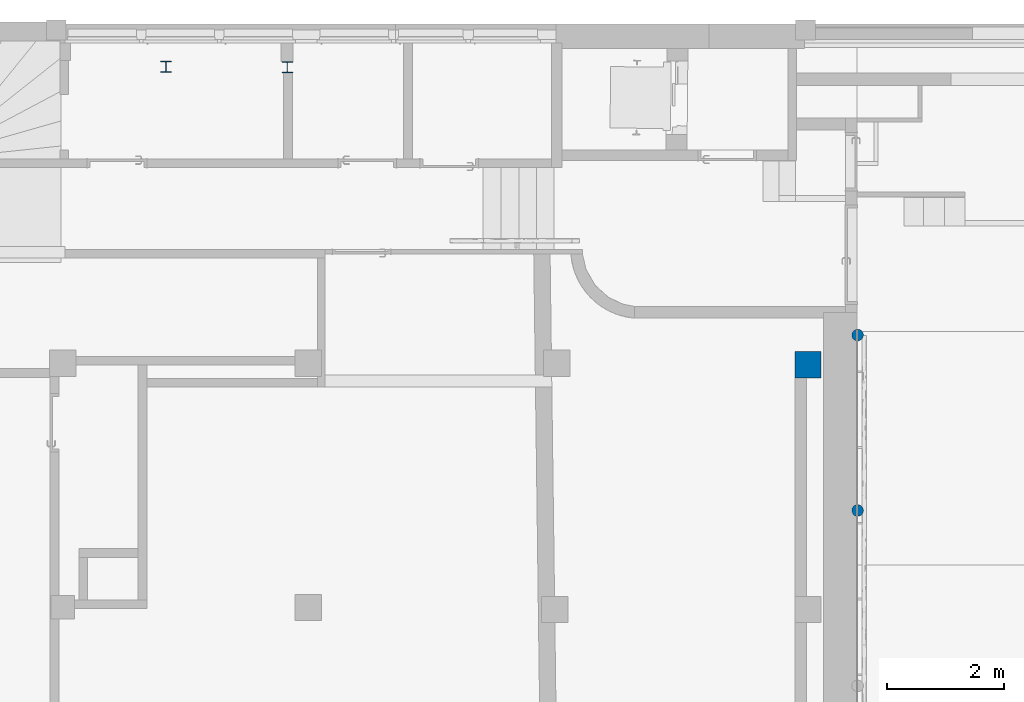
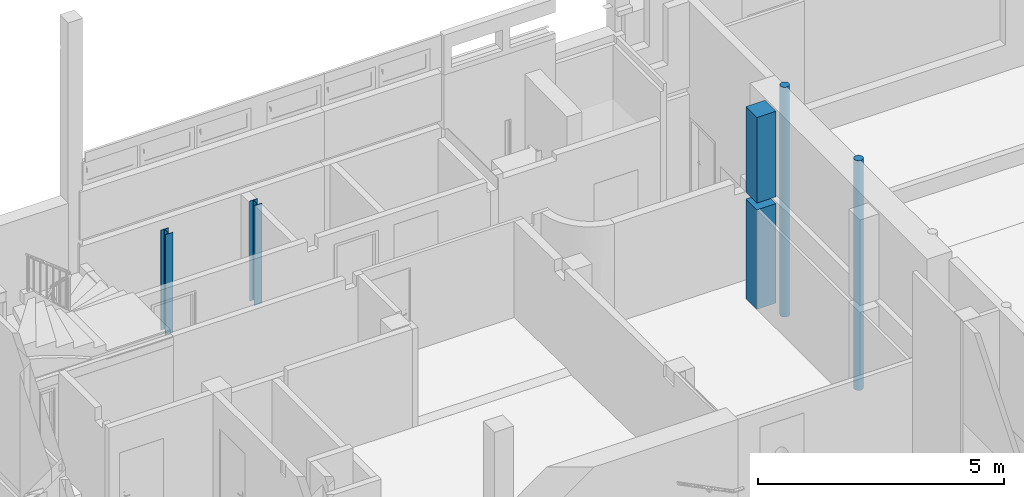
# One storey, part 2 of 39: 5 columns.
"""IFC4 building model written with IfcOpenShell, lengths in metres."""

from ifc_helpers import new_model, entity, si_unit, converted_unit, derived_unit, direction, frame, origin, place, context, subcontext, project, spatial, indexed_curve, outline, extrude, source, transform, mapped, material, material_list, type_object, type_shapes, element, save


model = new_model("IFC4")

# Units and contexts
model_context = context("Model", 3, precision=1e-05, world=origin(), true_north=direction((6.12303176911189e-17, 1.0)))
body_context = subcontext(model_context, "Body", "Model", "MODEL_VIEW")
ifc_project = project(units=[si_unit("LENGTHUNIT", "METRE"), si_unit("AREAUNIT", "SQUARE_METRE"), si_unit("VOLUMEUNIT", "CUBIC_METRE"), converted_unit("PLANEANGLEUNIT", "DEGREE", entity("IfcRatioMeasure", 0.0174532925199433), si_unit("PLANEANGLEUNIT", "RADIAN"), dimensions=[0, 0, 0, 0, 0, 0, 0]), si_unit("MASSUNIT", "GRAM", prefix="KILO"), derived_unit("MASSDENSITYUNIT", [(si_unit("MASSUNIT", "GRAM", prefix="KILO"), 1), (si_unit("LENGTHUNIT", "METRE"), -3)]), derived_unit("MOMENTOFINERTIAUNIT", [(si_unit("LENGTHUNIT", "METRE"), 4)]), si_unit("TIMEUNIT", "SECOND"), si_unit("FREQUENCYUNIT", "HERTZ"), si_unit("THERMODYNAMICTEMPERATUREUNIT", "DEGREE_CELSIUS"), derived_unit("THERMALTRANSMITTANCEUNIT", [(si_unit("MASSUNIT", "GRAM", prefix="KILO"), 1), (si_unit("THERMODYNAMICTEMPERATUREUNIT", "KELVIN"), -1), (si_unit("TIMEUNIT", "SECOND"), -3)]), derived_unit("VOLUMETRICFLOWRATEUNIT", [(si_unit("LENGTHUNIT", "METRE"), 3), (si_unit("TIMEUNIT", "SECOND"), -1)]), si_unit("ELECTRICCURRENTUNIT", "AMPERE"), si_unit("ELECTRICVOLTAGEUNIT", "VOLT"), si_unit("POWERUNIT", "WATT"), si_unit("FORCEUNIT", "NEWTON", prefix="KILO"), si_unit("ILLUMINANCEUNIT", "LUX"), si_unit("LUMINOUSFLUXUNIT", "LUMEN"), si_unit("LUMINOUSINTENSITYUNIT", "CANDELA"), derived_unit("USERDEFINED", [(si_unit("MASSUNIT", "GRAM", prefix="KILO"), -1), (si_unit("LENGTHUNIT", "METRE"), -2), (si_unit("TIMEUNIT", "SECOND"), 3), (si_unit("LUMINOUSFLUXUNIT", "LUMEN"), 1)]), derived_unit("LINEARVELOCITYUNIT", [(si_unit("LENGTHUNIT", "METRE"), 1), (si_unit("TIMEUNIT", "SECOND"), -1)]), si_unit("PRESSUREUNIT", "PASCAL"), derived_unit("USERDEFINED", [(si_unit("LENGTHUNIT", "METRE"), -2), (si_unit("MASSUNIT", "GRAM", prefix="KILO"), 1), (si_unit("TIMEUNIT", "SECOND"), -2)]), derived_unit("LINEARFORCEUNIT", [(si_unit("MASSUNIT", "GRAM", prefix="KILO"), 1), (si_unit("LENGTHUNIT", "METRE"), 1), (si_unit("TIMEUNIT", "SECOND"), -2), (si_unit("LENGTHUNIT", "METRE"), -1)]), derived_unit("PLANARFORCEUNIT", [(si_unit("MASSUNIT", "GRAM", prefix="KILO"), 1), (si_unit("LENGTHUNIT", "METRE"), 1), (si_unit("TIMEUNIT", "SECOND"), -2), (si_unit("LENGTHUNIT", "METRE"), -2)])], contexts=[model_context])

# Site, building, storey
site_placement = place(None, origin())
site = spatial("IfcSite", under=ifc_project, at=site_placement, Name="Default", CompositionType="ELEMENT")
building_placement = place(site_placement, origin())
building = spatial("IfcBuilding", under=site, at=building_placement, Name="HOTEL CONSULAIRE BOULOGNE SUR MER", CompositionType="ELEMENT")
storey_placement = place(building_placement, frame((0.0, 0.0, -5.02343668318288)))
storey = spatial("IfcBuildingStorey", under=building, at=storey_placement, Name="SS3", CompositionType="ELEMENT", Elevation=-5.02343668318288)

# Columns
ifc_material_1 = material(Name="Acier structurel - S235", Category="Métal")
column_type_1 = type_object("IfcColumnType", Name="Poteau HE-A:HEA180", PredefinedType="COLUMN", material=ifc_material_1)
shared_shape_1 = source(origin(), body_context, "Body", "SweptSolid", [
    extrude(outline(indexed_curve([(0.086, -0.09), (0.095, -0.09), (0.095, 0.09), (0.086, 0.09), (0.086, 0.018), (0.0858153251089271, 0.0156534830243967), (0.0852658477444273, 0.0133647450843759), (0.0843650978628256, 0.0111901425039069), (0.0831352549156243, 0.009183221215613), (0.0816066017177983, 0.00739339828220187), (0.0798167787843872, 0.00586474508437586), (0.0778098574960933, 0.00463490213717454), (0.0756352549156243, 0.00373415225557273), (0.0733465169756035, 0.00318467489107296), (0.0710000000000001, 0.003), (-0.071, 0.003), (-0.0733465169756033, 0.00318467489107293), (-0.0756352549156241, 0.00373415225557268), (-0.0778098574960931, 0.00463490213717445), (-0.079816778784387, 0.00586474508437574), (-0.0816066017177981, 0.00739339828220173), (-0.0831352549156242, 0.00918322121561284), (-0.0843650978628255, 0.0111901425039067), (-0.0852658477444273, 0.0133647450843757), (-0.085815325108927, 0.0156534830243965), (-0.086, 0.0179999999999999), (-0.086, 0.09), (-0.095, 0.09), (-0.095, -0.09), (-0.086, -0.09), (-0.086, -0.018), (-0.0858153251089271, -0.0156534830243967), (-0.0852658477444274, -0.013364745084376), (-0.0843650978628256, -0.0111901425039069), (-0.0831352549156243, -0.00918322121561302), (-0.0816066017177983, -0.00739339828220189), (-0.0798167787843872, -0.00586474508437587), (-0.0778098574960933, -0.00463490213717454), (-0.0756352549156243, -0.00373415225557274), (-0.0733465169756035, -0.00318467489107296), (-0.0710000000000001, -0.00300000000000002), (0.071, -0.00299999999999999), (0.0733465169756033, -0.00318467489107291), (0.0756352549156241, -0.00373415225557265), (0.0778098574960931, -0.00463490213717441), (0.079816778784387, -0.0058647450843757), (0.0816066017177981, -0.00739339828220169), (0.0831352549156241, -0.00918322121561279), (0.0843650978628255, -0.0111901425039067), (0.0852658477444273, -0.0133647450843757), (0.0858153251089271, -0.0156534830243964), (0.086, -0.0179999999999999), (0.086, -0.09)], self_intersect=False)), frame((0.0, 0.0, -5.02343668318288), z_axis=(0.0, 0.0, 1.0), x_axis=(0.0, -1.0, 0.0)), (0.0, 0.0, 1.0), 2.47999999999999),
])
type_shapes(column_type_1, [shared_shape_1])
for number, where in (
    (1, (2.61117677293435, -10.55332416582, 5.02343668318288)),
    (2, (0.533176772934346, -10.54432416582, 5.02343668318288)),
):
    element("IfcColumn", number, at=place(storey_placement, frame(where)), inside=storey, type_object=column_type_1, material=ifc_material_1, Name="Poteau HE-A:HEA180", ObjectType="Poteau HE-A:HEA180", PredefinedType="COLUMN", context=body_context, shape_type="MappedRepresentation", body=[
        mapped(shared_shape_1, transform((0.0, 0.0, 0.0), scale=1.0)),
    ])
ifc_material_2 = material(Name="Finition Peinture - Blanc satiné", Category="Peinture")
ifc_material_3 = material(Name="Maçonnerie - Béton coulé sur place", Category="Béton")
ifc_material_list_1 = material_list([ifc_material_3, ifc_material_2])
column_type_2 = type_object("IfcColumnType", Name="Poteau béton - Arrondi:200mm", PredefinedType="COLUMN", material=ifc_material_list_1)
shared_shape_2 = source(origin(), body_context, "Body", "SweptSolid", [
    extrude(outline(indexed_curve([(0.0999999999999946, 0.0), (0.0951056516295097, 0.0309016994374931), (0.0809016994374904, 0.0587785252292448), (0.0587785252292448, 0.0809016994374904), (0.0309016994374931, 0.0951056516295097), (0.0, 0.0999999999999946), (-0.0309016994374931, 0.0951056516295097), (-0.0587785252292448, 0.0809016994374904), (-0.0809016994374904, 0.0587785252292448), (-0.0951056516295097, 0.0309016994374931), (-0.0999999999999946, 0.0), (-0.0951056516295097, -0.0309016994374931), (-0.0809016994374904, -0.0587785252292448), (-0.0587785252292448, -0.0809016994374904), (-0.0309016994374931, -0.0951056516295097), (0.0, -0.0999999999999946), (0.0309016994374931, -0.0951056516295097), (0.0587785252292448, -0.0809016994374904), (0.0809016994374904, -0.0587785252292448), (0.0951056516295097, -0.0309016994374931), (0.0999999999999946, 0.0)], self_intersect=False)), frame((12.3663396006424, -18.134909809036, -5.96433668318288)), (0.0, 0.0, 1.0), 5.69433668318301),
])
type_shapes(column_type_2, [shared_shape_2])
column_1_placement = place(storey_placement, frame((0.0, 0.0, 5.02343668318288)))
element("IfcColumn", 3, at=column_1_placement, inside=storey, type_object=column_type_2, material=ifc_material_2, Name="Poteau béton - Arrondi:200mm", ObjectType="Poteau béton - Arrondi:200mm", PredefinedType="COLUMN", context=body_context, shape_type="MappedRepresentation", body=[
    mapped(shared_shape_2, transform((0.0, 0.0, 0.0), scale=1.0)),
])
ifc_material_list_2 = material_list([ifc_material_3, ifc_material_2])
column_type_3 = type_object("IfcColumnType", Name="Poteau béton - Arrondi:200mm", PredefinedType="COLUMN", material=ifc_material_list_2)
shared_shape_3 = source(origin(), body_context, "Body", "SweptSolid", [
    extrude(outline(indexed_curve([(0.0999999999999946, 0.0), (0.0951056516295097, 0.0309016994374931), (0.0809016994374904, 0.0587785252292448), (0.0587785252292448, 0.0809016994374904), (0.0309016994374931, 0.0951056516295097), (0.0, 0.0999999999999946), (-0.0309016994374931, 0.0951056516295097), (-0.0587785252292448, 0.0809016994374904), (-0.0809016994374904, 0.0587785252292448), (-0.0951056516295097, 0.0309016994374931), (-0.0999999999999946, 0.0), (-0.0951056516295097, -0.0309016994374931), (-0.0809016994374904, -0.0587785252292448), (-0.0587785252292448, -0.0809016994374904), (-0.0309016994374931, -0.0951056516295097), (0.0, -0.0999999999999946), (0.0309016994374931, -0.0951056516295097), (0.0587785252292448, -0.0809016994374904), (0.0809016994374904, -0.0587785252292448), (0.0951056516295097, -0.0309016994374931), (0.0999999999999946, 0.0)], self_intersect=False)), frame((12.3663396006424, -15.134909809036, -5.96433668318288)), (0.0, 0.0, 1.0), 5.69433668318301),
])
type_shapes(column_type_3, [shared_shape_3])
column_2_placement = place(storey_placement, frame((0.0, 0.0, 5.02343668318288)))
element("IfcColumn", 4, at=column_2_placement, inside=storey, type_object=column_type_3, material=ifc_material_2, Name="Poteau béton - Arrondi:200mm", ObjectType="Poteau béton - Arrondi:200mm", PredefinedType="COLUMN", context=body_context, shape_type="MappedRepresentation", body=[
    mapped(shared_shape_3, transform((0.0, 0.0, 0.0), scale=1.0)),
])
column_type_4 = type_object("IfcColumnType", Name="Poteau béton - Rectangulaire:450X450", PredefinedType="COLUMN", material=ifc_material_3)
shared_shape_4 = source(origin(), body_context, "Body", "SweptSolid", [
    extrude(outline(indexed_curve([(-0.225000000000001, -0.225000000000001), (0.224999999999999, -0.225000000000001), (0.225000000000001, 0.224999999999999), (-0.224999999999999, 0.225000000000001), (-0.225000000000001, -0.225000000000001)], self_intersect=False)), frame((11.5182012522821, -15.6403511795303, -5.02343668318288), z_axis=(0.0, 0.0, 1.0), x_axis=(0.0, -1.0, 0.0)), (0.0, 0.0, 1.0), 2.46399047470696),
    extrude(outline(indexed_curve([(-0.225000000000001, -0.225000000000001), (0.224999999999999, -0.225000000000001), (0.225000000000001, 0.224999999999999), (-0.224999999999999, 0.225000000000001), (-0.225000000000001, -0.225000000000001)], self_intersect=False)), frame((11.5182012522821, -15.6403511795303, -2.38944620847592), z_axis=(0.0, 0.0, 1.0), x_axis=(0.0, -1.0, 0.0)), (0.0, 0.0, 1.0), 2.11944620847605),
])
type_shapes(column_type_4, [shared_shape_4])
column_3_placement = place(storey_placement, frame((0.0, 0.0, 5.02343668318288)))
element("IfcColumn", 5, at=column_3_placement, inside=storey, type_object=column_type_4, material=ifc_material_3, Name="Poteau béton - Rectangulaire:450X450", ObjectType="Poteau béton - Rectangulaire:450X450", PredefinedType="COLUMN", context=body_context, shape_type="MappedRepresentation", body=[
    mapped(shared_shape_4, transform((0.0, 0.0, 0.0), scale=1.0)),
])

save(model, "model.ifc")
